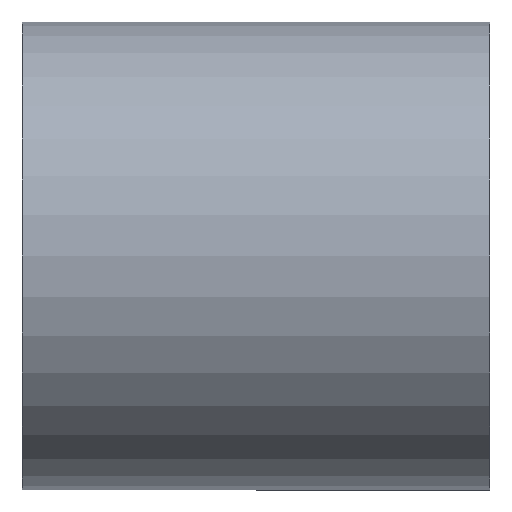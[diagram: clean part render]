
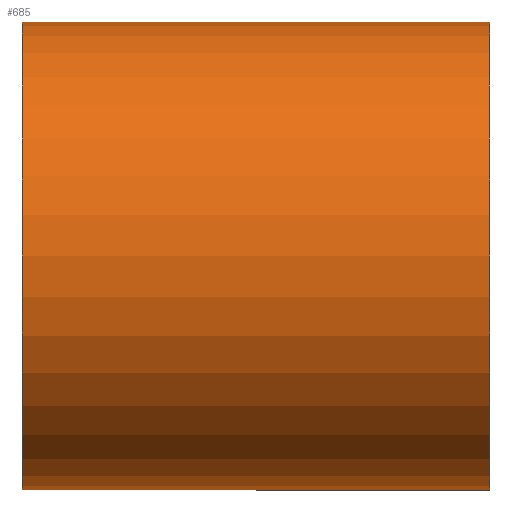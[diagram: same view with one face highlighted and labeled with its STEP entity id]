
A CAD part, front view. The second image highlights one B-rep face of the part: STEP entity #685.
In plain terms, the highlighted cylindrical face has radius 10 mm (diameter 20 mm), a partial arc.
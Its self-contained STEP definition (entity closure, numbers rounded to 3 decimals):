
#61 = DIRECTION ( 'NONE',  ( 0., 0., 1. ) ) ;
#79 = CARTESIAN_POINT ( 'NONE',  ( -10., 0., -10. ) ) ;
#87 = DIRECTION ( 'NONE',  ( 0., 0., 1. ) ) ;
#92 = EDGE_CURVE ( 'NONE', #324, #500, #376, .T. ) ;
#117 = CIRCLE ( 'NONE', #747, 10. ) ;
#128 = AXIS2_PLACEMENT_3D ( 'NONE', #802, #553, #61 ) ;
#136 = DIRECTION ( 'NONE',  ( -1., 0., 0. ) ) ;
#170 = VERTEX_POINT ( 'NONE', #322 ) ;
#187 = EDGE_LOOP ( 'NONE', ( #687, #377, #613, #570 ) ) ;
#244 = LINE ( 'NONE', #374, #874 ) ;
#261 = EDGE_CURVE ( 'NONE', #500, #702, #379, .T. ) ;
#307 = DIRECTION ( 'NONE',  ( -1., 0., 0. ) ) ;
#322 = CARTESIAN_POINT ( 'NONE',  ( 10., 0., 10. ) ) ;
#324 = VERTEX_POINT ( 'NONE', #337 ) ;
#337 = CARTESIAN_POINT ( 'NONE',  ( 10., 0., -10. ) ) ;
#342 = CARTESIAN_POINT ( 'NONE',  ( -10., 0., 10. ) ) ;
#374 = CARTESIAN_POINT ( 'NONE',  ( 0., 0., 10. ) ) ;
#376 = LINE ( 'NONE', #781, #574 ) ;
#377 = ORIENTED_EDGE ( 'NONE', *, *, #535, .T. ) ;
#379 = CIRCLE ( 'NONE', #128, 10. ) ;
#409 = DIRECTION ( 'NONE',  ( 0., 0., 1. ) ) ;
#427 = CARTESIAN_POINT ( 'NONE',  ( 10., 0., 0. ) ) ;
#478 = CYLINDRICAL_SURFACE ( 'NONE', #576, 10. ) ;
#500 = VERTEX_POINT ( 'NONE', #79 ) ;
#535 = EDGE_CURVE ( 'NONE', #324, #170, #117, .T. ) ;
#553 = DIRECTION ( 'NONE',  ( -1., 0., 0. ) ) ;
#570 = ORIENTED_EDGE ( 'NONE', *, *, #261, .F. ) ;
#574 = VECTOR ( 'NONE', #307, 1000. ) ;
#576 = AXIS2_PLACEMENT_3D ( 'NONE', #629, #136, #409 ) ;
#613 = ORIENTED_EDGE ( 'NONE', *, *, #740, .T. ) ;
#629 = CARTESIAN_POINT ( 'NONE',  ( 0., 0., 0. ) ) ;
#685 = ADVANCED_FACE ( 'NONE', ( #882 ), #478, .T. ) ;
#687 = ORIENTED_EDGE ( 'NONE', *, *, #92, .F. ) ;
#702 = VERTEX_POINT ( 'NONE', #342 ) ;
#706 = DIRECTION ( 'NONE',  ( -1., 0., 0. ) ) ;
#714 = DIRECTION ( 'NONE',  ( -1., 0., 0. ) ) ;
#740 = EDGE_CURVE ( 'NONE', #170, #702, #244, .T. ) ;
#747 = AXIS2_PLACEMENT_3D ( 'NONE', #427, #706, #87 ) ;
#781 = CARTESIAN_POINT ( 'NONE',  ( 0., 0., -10. ) ) ;
#802 = CARTESIAN_POINT ( 'NONE',  ( -10., 0., 0. ) ) ;
#874 = VECTOR ( 'NONE', #714, 1000. ) ;
#882 = FACE_OUTER_BOUND ( 'NONE', #187, .T. ) ;
